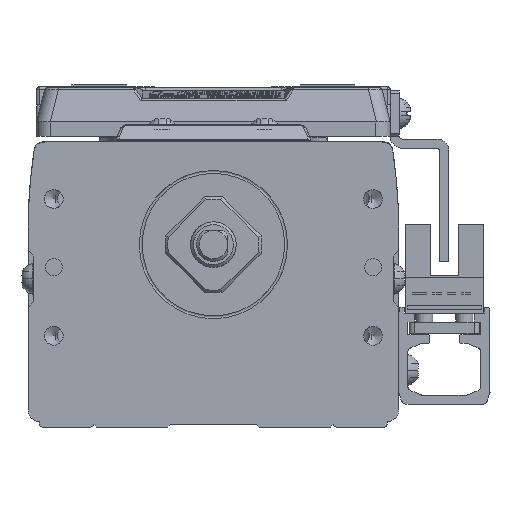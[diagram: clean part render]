
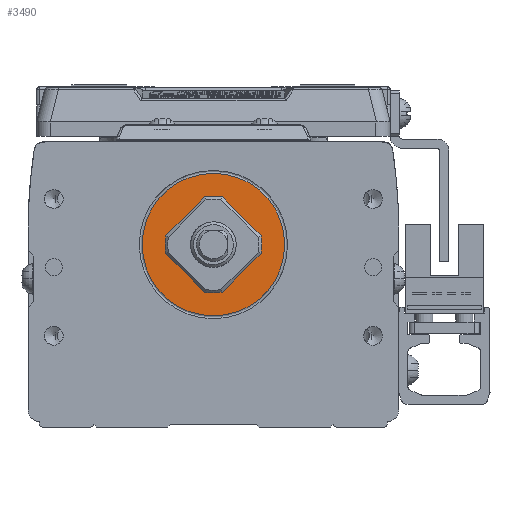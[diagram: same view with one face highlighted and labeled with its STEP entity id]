
A CAD part, left-side view. The second image highlights one B-rep face of the part: STEP entity #3490.
In plain terms, the highlighted planar face has unit normal (-1, 0, 0) as drawn and (0, 0, 1) by its records, which use the part's own axes.
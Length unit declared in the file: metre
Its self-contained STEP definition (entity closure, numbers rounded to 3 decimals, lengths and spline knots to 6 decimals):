
#3490=ADVANCED_FACE('',(#7920,#7921),#7922,.T.);
#7920=FACE_OUTER_BOUND('',#14305,.T.);
#7921=FACE_BOUND('',#14306,.T.);
#7922=PLANE('',#14307);
#14305=EDGE_LOOP('',(#25186));
#14306=EDGE_LOOP('',(#25187));
#14307=AXIS2_PLACEMENT_3D('',#25188,#25189,#25190);
#25186=ORIENTED_EDGE('',*,*,#40872,.T.);
#25187=ORIENTED_EDGE('',*,*,#40873,.F.);
#25188=CARTESIAN_POINT('',(0.000036,-0.0065,0.02));
#25189=DIRECTION('',(0.0,0.0,1.0));
#25190=DIRECTION('',(1.0,0.0,0.0));
#40872=EDGE_CURVE('',#48278,#48278,#48279,.T.);
#40873=EDGE_CURVE('',#48280,#48280,#48281,.T.);
#48278=VERTEX_POINT('',#58703);
#48279=CIRCLE('',#58704,0.0125);
#48280=VERTEX_POINT('',#58705);
#48281=CIRCLE('',#58706,0.004);
#58703=CARTESIAN_POINT('',(-0.0125,0.,0.02));
#58704=AXIS2_PLACEMENT_3D('',#71102,#71103,#71104);
#58705=CARTESIAN_POINT('',(0.004,0.0,0.02));
#58706=AXIS2_PLACEMENT_3D('',#71105,#71106,#71107);
#71102=CARTESIAN_POINT('',(0.0,0.,0.02));
#71103=DIRECTION('',(0.0,0.0,1.0));
#71104=DIRECTION('',(1.0,0.0,0.0));
#71105=CARTESIAN_POINT('',(0.0,0.0,0.02));
#71106=DIRECTION('',(0.0,0.0,1.0));
#71107=DIRECTION('',(-1.0,0.0,0.0));
